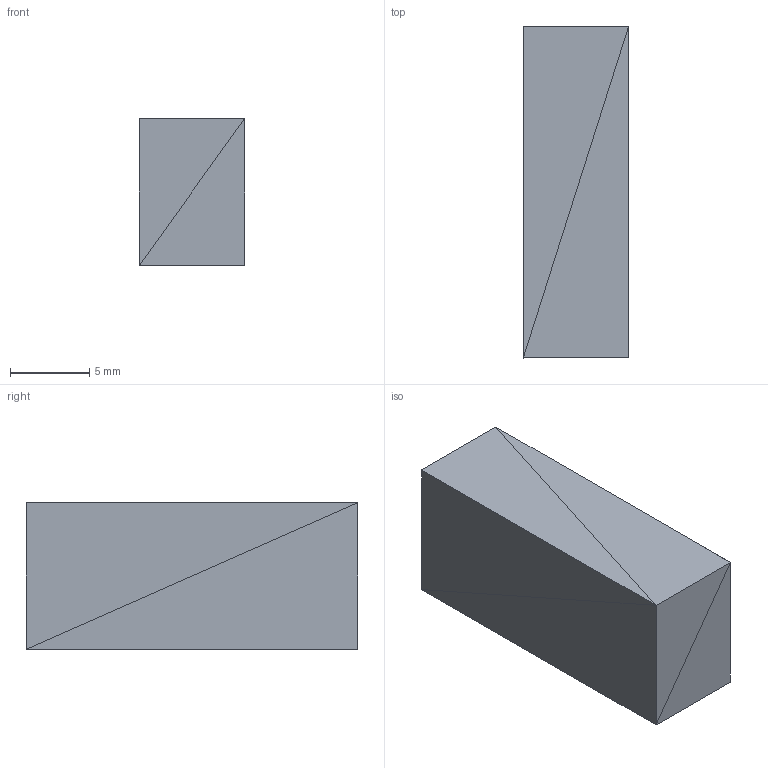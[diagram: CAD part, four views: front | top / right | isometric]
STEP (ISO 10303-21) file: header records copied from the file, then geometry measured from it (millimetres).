
FILE_DESCRIPTION((''),'2;1');
FILE_NAME('case', '2026-10-03T10:00:21', (''), (''), 'ImageToStl.com STEP Converter','', '');
FILE_SCHEMA(('AUTOMOTIVE_DESIGN_CC2'));
Length unit declared in the file: metre
Products named in the file (1): product0
Bounding box: 6.66 x 20.99 x 9.27 mm (x, y, z)
Surface area: 1110.4 mm2 (no closed solid volume)
Topology: 0 solids, 28 shells, 28 faces, 84 edges, 16 vertices
Faces by surface type: plane 28
Entity records: 676 total; most frequent: DIRECTION 142, ORIENTED_EDGE 84, EDGE_CURVE 84, LINE 84, VECTOR 84, AXIS2_PLACEMENT_3D 29, FACE_SURFACE 28, PLANE 28
